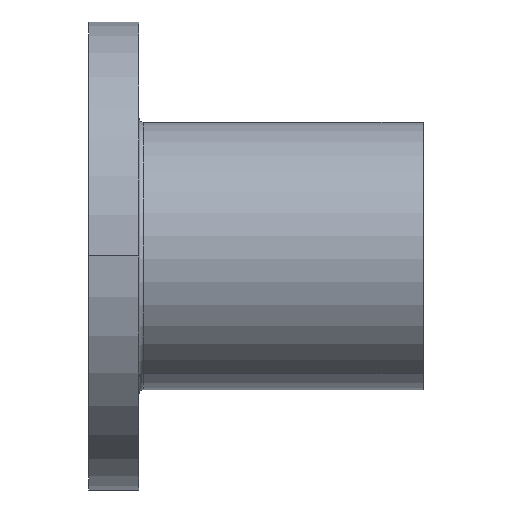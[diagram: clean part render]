
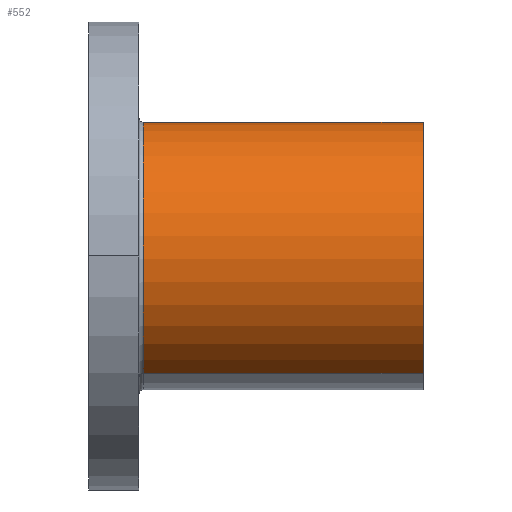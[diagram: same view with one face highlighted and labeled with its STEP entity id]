
A CAD part, front view. The second image highlights one B-rep face of the part: STEP entity #552.
In plain terms, the highlighted cylindrical face has radius 16 mm (diameter 32 mm), a partial arc.
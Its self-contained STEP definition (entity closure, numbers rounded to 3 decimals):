
#143=CARTESIAN_POINT('Axis2P3D Location',(40.,0.,0.)) ;
#147=CARTESIAN_POINT('Vertex',(40.,7.671,14.041)) ;
#149=CARTESIAN_POINT('Vertex',(40.,-7.671,-14.041)) ;
#522=CARTESIAN_POINT('Axis2P3D Location',(50.092,0.,0.)) ;
#527=CARTESIAN_POINT('Line Origine',(50.092,-7.671,-14.041)) ;
#531=CARTESIAN_POINT('Vertex',(6.5,-7.671,-14.041)) ;
#534=CARTESIAN_POINT('Line Origine',(50.092,7.671,14.041)) ;
#538=CARTESIAN_POINT('Vertex',(6.5,7.671,14.041)) ;
#541=CARTESIAN_POINT('Axis2P3D Location',(6.5,0.,0.)) ;
#144=DIRECTION('Axis2P3D Direction',(1.,0.,0.)) ;
#523=DIRECTION('Axis2P3D Direction',(-1.,0.,0.)) ;
#524=DIRECTION('Axis2P3D XDirection',(0.,-0.479,-0.878)) ;
#528=DIRECTION('Vector Direction',(-1.,0.,0.)) ;
#535=DIRECTION('Vector Direction',(-1.,0.,0.)) ;
#542=DIRECTION('Axis2P3D Direction',(-1.,0.,0.)) ;
#145=AXIS2_PLACEMENT_3D('Circle Axis2P3D',#143,#144,$) ;
#525=AXIS2_PLACEMENT_3D('Cylinder Axis2P3D',#522,#523,#524) ;
#543=AXIS2_PLACEMENT_3D('Circle Axis2P3D',#541,#542,$) ;
#547=ORIENTED_EDGE('',*,*,#533,.F.) ;
#548=ORIENTED_EDGE('',*,*,#151,.F.) ;
#549=ORIENTED_EDGE('',*,*,#540,.T.) ;
#550=ORIENTED_EDGE('',*,*,#545,.T.) ;
#529=VECTOR('Line Direction',#528,1.) ;
#536=VECTOR('Line Direction',#535,1.) ;
#552=ADVANCED_FACE('CTM20',(#551),#526,.T.) ;
#146=CIRCLE('generated circle',#145,16.) ;
#544=CIRCLE('generated circle',#543,16.) ;
#526=CYLINDRICAL_SURFACE('generated cylinder',#525,16.) ;
#151=EDGE_CURVE('',#148,#150,#146,.T.) ;
#533=EDGE_CURVE('',#150,#532,#530,.T.) ;
#540=EDGE_CURVE('',#148,#539,#537,.T.) ;
#545=EDGE_CURVE('',#539,#532,#544,.F.) ;
#546=EDGE_LOOP('',(#547,#548,#549,#550)) ;
#551=FACE_OUTER_BOUND('',#546,.T.) ;
#530=LINE('Line',#527,#529) ;
#537=LINE('Line',#534,#536) ;
#148=VERTEX_POINT('',#147) ;
#150=VERTEX_POINT('',#149) ;
#532=VERTEX_POINT('',#531) ;
#539=VERTEX_POINT('',#538) ;
